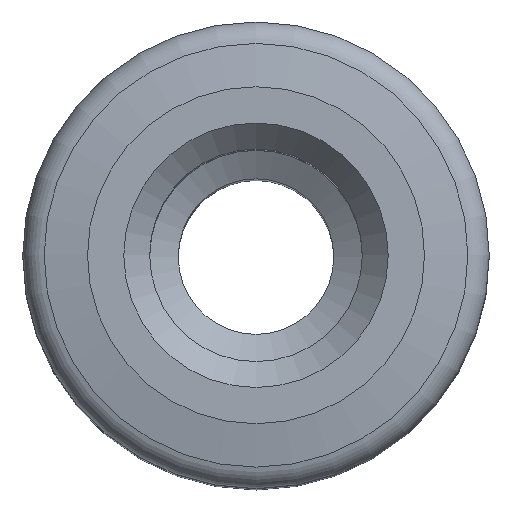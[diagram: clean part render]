
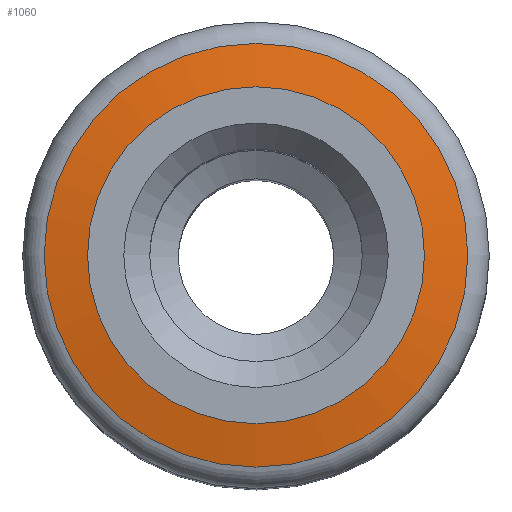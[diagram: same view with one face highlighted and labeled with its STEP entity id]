
A CAD part, top view. The second image highlights one B-rep face of the part: STEP entity #1060.
In plain terms, the highlighted conical face has half-angle 80 degrees and reference radius 4.087 mm.
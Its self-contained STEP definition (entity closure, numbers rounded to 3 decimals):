
#1060=ADVANCED_FACE('', (#1070,#1080), #1090, .T.);
#3430=AXIS2_PLACEMENT_3D('Ax2Pl3d', #3440, #3450, #3460);
#3470=AXIS2_PLACEMENT_3D('Ax2Pl3d', #3480, #3490, #3500);
#3510=AXIS2_PLACEMENT_3D('Ax2Pl3d', #3520, #3530, #3540);
#3440=CARTESIAN_POINT('HicPkt', (12.027,7.217,
37.764));
#4380=CARTESIAN_POINT('', (16.114,7.217,37.764));
#3480=CARTESIAN_POINT('HicPkt', (12.027,7.217,
37.764));
#3520=CARTESIAN_POINT('HicPkt', (12.027,7.217,
37.912));
#4390=CARTESIAN_POINT('', (15.277,7.217,37.912));
#4700=CIRCLE('Circle', #3430, 4.087);
#4710=CIRCLE('Circle', #3510, 3.25);
#1090=CONICAL_SURFACE('Kegel', #3470, 4.087, 
1.396);
#3450=DIRECTION('Axis', (0.,0.,1.));
#3460=DIRECTION('RefDirection', (1.,0.,-0.));
#3490=DIRECTION('Axis', (0.,0.,-1.));
#3500=DIRECTION('RefDirection', (-1.,-0.,0.));
#3530=DIRECTION('Axis', (0.,0.,1.));
#3540=DIRECTION('RefDirection', (1.,0.,-0.));
#6320=EDGE_CURVE('', #6330, #6330, #4700, .T.);
#6340=EDGE_CURVE('', #6350, #6350, #4710, .T.);
#7440=EDGE_LOOP('Edge_loop', (#7450));
#7460=EDGE_LOOP('Edge_loop', (#7470));
#1080=FACE_BOUND('', #7460, .T.);
#1070=FACE_OUTER_BOUND('Face_outer_bound', #7440, .T.);
#7450=ORIENTED_EDGE('', *, *, #6320, .T.);
#7470=ORIENTED_EDGE('', *, *, #6340, .F.);
#6330=VERTEX_POINT('', #4380);
#6350=VERTEX_POINT('', #4390);
